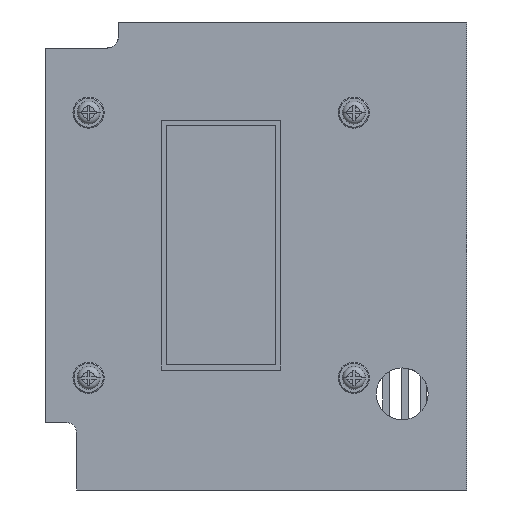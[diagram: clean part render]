
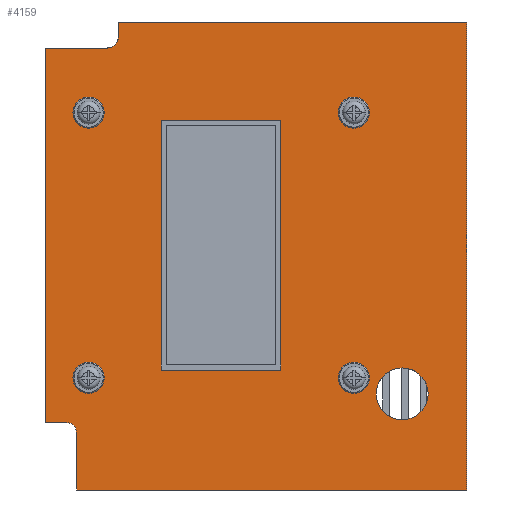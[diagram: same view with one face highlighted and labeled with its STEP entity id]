
A CAD part, front view. The second image highlights one B-rep face of the part: STEP entity #4159.
In plain terms, the highlighted planar face has unit normal (0, -1, 0).
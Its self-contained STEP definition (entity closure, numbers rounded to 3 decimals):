
#363=DIRECTION('',(-1.,0.,0.));
#364=VECTOR('',#363,67.);
#365=CARTESIAN_POINT('',(37.322,-52.082,90.));
#366=LINE('',#365,#364);
#934=DIRECTION('',(0.,0.,-1.));
#935=VECTOR('',#934,11.);
#936=CARTESIAN_POINT('',(-37.678,-52.082,11.));
#937=LINE('',#936,#935);
#1099=DIRECTION('',(-1.,0.,0.));
#1100=VECTOR('',#1099,12.);
#1101=CARTESIAN_POINT('',(-31.678,-52.082,85.));
#1102=LINE('',#1101,#1100);
#1159=DIRECTION('',(0.,0.,-1.));
#1160=VECTOR('',#1159,72.);
#1161=CARTESIAN_POINT('',(-43.678,-52.082,85.));
#1162=LINE('',#1161,#1160);
#1163=CARTESIAN_POINT('',(-39.678,-52.082,11.));
#1164=DIRECTION('',(0.,-1.,0.));
#1165=DIRECTION('',(1.,0.,0.));
#1166=AXIS2_PLACEMENT_3D('',#1163,#1164,#1165);
#1168=DIRECTION('',(-1.,0.,0.));
#1169=VECTOR('',#1168,4.);
#1170=CARTESIAN_POINT('',(-39.678,-52.082,13.));
#1171=LINE('',#1170,#1169);
#1172=CARTESIAN_POINT('',(-31.678,-52.082,87.));
#1173=DIRECTION('',(0.,-1.,0.));
#1174=DIRECTION('',(0.,0.,-1.));
#1175=AXIS2_PLACEMENT_3D('',#1172,#1173,#1174);
#1177=DIRECTION('',(0.,0.,1.));
#1178=VECTOR('',#1177,3.);
#1179=CARTESIAN_POINT('',(-29.678,-52.082,87.));
#1180=LINE('',#1179,#1178);
#1181=DIRECTION('',(0.,0.,-1.));
#1182=VECTOR('',#1181,90.);
#1183=CARTESIAN_POINT('',(37.322,-52.082,90.));
#1184=LINE('',#1183,#1182);
#1185=DIRECTION('',(-1.,0.,0.));
#1186=VECTOR('',#1185,75.);
#1187=CARTESIAN_POINT('',(37.322,-52.082,0.));
#1188=LINE('',#1187,#1186);
#1189=CARTESIAN_POINT('',(15.627,-52.082,72.575));
#1190=DIRECTION('',(0.,-1.,0.));
#1191=DIRECTION('',(-1.,0.,0.));
#1192=AXIS2_PLACEMENT_3D('',#1189,#1190,#1191);
#1194=CARTESIAN_POINT('',(15.627,-52.082,72.575));
#1195=DIRECTION('',(0.,-1.,0.));
#1196=DIRECTION('',(1.,0.,0.));
#1197=AXIS2_PLACEMENT_3D('',#1194,#1195,#1196);
#1199=CARTESIAN_POINT('',(-35.373,-52.082,
21.575));
#1200=DIRECTION('',(0.,-1.,0.));
#1201=DIRECTION('',(-1.,0.,0.));
#1202=AXIS2_PLACEMENT_3D('',#1199,#1200,#1201);
#1204=CARTESIAN_POINT('',(-35.373,-52.082,
21.575));
#1205=DIRECTION('',(0.,-1.,0.));
#1206=DIRECTION('',(1.,0.,0.));
#1207=AXIS2_PLACEMENT_3D('',#1204,#1205,#1206);
#1209=CARTESIAN_POINT('',(15.627,-52.082,21.575));
#1210=DIRECTION('',(0.,-1.,0.));
#1211=DIRECTION('',(-1.,0.,0.));
#1212=AXIS2_PLACEMENT_3D('',#1209,#1210,#1211);
#1214=CARTESIAN_POINT('',(15.627,-52.082,21.575));
#1215=DIRECTION('',(0.,-1.,0.));
#1216=DIRECTION('',(1.,0.,0.));
#1217=AXIS2_PLACEMENT_3D('',#1214,#1215,#1216);
#1219=CARTESIAN_POINT('',(24.925,-52.082,18.48));
#1220=DIRECTION('',(0.,-1.,0.));
#1221=DIRECTION('',(1.,0.,0.));
#1222=AXIS2_PLACEMENT_3D('',#1219,#1220,#1221);
#1224=CARTESIAN_POINT('',(24.925,-52.082,18.48));
#1225=DIRECTION('',(0.,-1.,0.));
#1226=DIRECTION('',(-1.,0.,0.));
#1227=AXIS2_PLACEMENT_3D('',#1224,#1225,#1226);
#1229=CARTESIAN_POINT('',(-35.373,-52.082,
72.575));
#1230=DIRECTION('',(0.,-1.,0.));
#1231=DIRECTION('',(-1.,0.,0.));
#1232=AXIS2_PLACEMENT_3D('',#1229,#1230,#1231);
#1234=CARTESIAN_POINT('',(-35.373,-52.082,
72.575));
#1235=DIRECTION('',(0.,-1.,0.));
#1236=DIRECTION('',(1.,0.,0.));
#1237=AXIS2_PLACEMENT_3D('',#1234,#1235,#1236);
#2417=DIRECTION('',(0.,0.,1.));
#2418=VECTOR('',#2417,48.);
#2419=CARTESIAN_POINT('',(-21.373,-52.082,23.075));
#2420=LINE('',#2419,#2418);
#2425=DIRECTION('',(1.,0.,0.));
#2426=VECTOR('',#2425,23.);
#2427=CARTESIAN_POINT('',(-21.373,-52.082,71.075));
#2428=LINE('',#2427,#2426);
#2433=DIRECTION('',(0.,0.,-1.));
#2434=VECTOR('',#2433,48.);
#2435=CARTESIAN_POINT('',(1.627,-52.082,71.075));
#2436=LINE('',#2435,#2434);
#2441=DIRECTION('',(-1.,0.,0.));
#2442=VECTOR('',#2441,23.);
#2443=CARTESIAN_POINT('',(1.627,-52.082,23.075));
#2444=LINE('',#2443,#2442);
#2883=CARTESIAN_POINT('',(37.322,-52.082,90.));
#2884=VERTEX_POINT('',#2883);
#2885=CARTESIAN_POINT('',(-29.678,-52.082,90.));
#2886=VERTEX_POINT('',#2885);
#2894=CARTESIAN_POINT('',(-37.678,-52.082,0.));
#2896=VERTEX_POINT('',#2894);
#2897=CARTESIAN_POINT('',(37.322,-52.082,0.));
#2898=VERTEX_POINT('',#2897);
#3063=CARTESIAN_POINT('',(-37.678,-52.082,11.));
#3065=VERTEX_POINT('',#3063);
#3068=CARTESIAN_POINT('',(-39.678,-52.082,13.));
#3070=VERTEX_POINT('',#3068);
#3082=CARTESIAN_POINT('',(-43.678,-52.082,13.));
#3083=VERTEX_POINT('',#3082);
#3102=CARTESIAN_POINT('',(-31.678,-52.082,85.));
#3103=VERTEX_POINT('',#3102);
#3104=CARTESIAN_POINT('',(-43.678,-52.082,85.));
#3105=VERTEX_POINT('',#3104);
#3113=CARTESIAN_POINT('',(-29.678,-52.082,87.));
#3114=VERTEX_POINT('',#3113);
#3115=CARTESIAN_POINT('',(12.627,-52.082,72.575));
#3116=CARTESIAN_POINT('',(18.627,-52.082,72.575));
#3117=VERTEX_POINT('',#3115);
#3118=VERTEX_POINT('',#3116);
#3119=CARTESIAN_POINT('',(-38.373,-52.082,
21.575));
#3120=CARTESIAN_POINT('',(-32.373,-52.082,
21.575));
#3121=VERTEX_POINT('',#3119);
#3122=VERTEX_POINT('',#3120);
#3123=CARTESIAN_POINT('',(12.627,-52.082,21.575));
#3124=CARTESIAN_POINT('',(18.627,-52.082,21.575));
#3125=VERTEX_POINT('',#3123);
#3126=VERTEX_POINT('',#3124);
#3127=CARTESIAN_POINT('',(29.925,-52.082,18.48));
#3128=CARTESIAN_POINT('',(19.925,-52.082,18.48));
#3129=VERTEX_POINT('',#3127);
#3130=VERTEX_POINT('',#3128);
#3131=CARTESIAN_POINT('',(-21.373,-52.082,23.075));
#3132=CARTESIAN_POINT('',(-21.373,-52.082,71.075));
#3133=VERTEX_POINT('',#3131);
#3134=VERTEX_POINT('',#3132);
#3135=CARTESIAN_POINT('',(1.627,-52.082,23.075));
#3136=VERTEX_POINT('',#3135);
#3137=CARTESIAN_POINT('',(1.627,-52.082,71.075));
#3138=VERTEX_POINT('',#3137);
#3139=CARTESIAN_POINT('',(-38.373,-52.082,
72.575));
#3140=CARTESIAN_POINT('',(-32.373,-52.082,
72.575));
#3141=VERTEX_POINT('',#3139);
#3142=VERTEX_POINT('',#3140);
#4099=CARTESIAN_POINT('',(0.,-52.082,0.));
#4100=DIRECTION('',(0.,-1.,0.));
#4101=DIRECTION('',(1.,0.,0.));
#4102=AXIS2_PLACEMENT_3D('',#4099,#4100,#4101);
#4103=PLANE('',#4102);
#4104=ORIENTED_EDGE('',*,*,#3827,.F.);
#4105=ORIENTED_EDGE('',*,*,#3842,.T.);
#4106=ORIENTED_EDGE('',*,*,#3880,.T.);
#4107=ORIENTED_EDGE('',*,*,#4094,.F.);
#4108=ORIENTED_EDGE('',*,*,#3960,.F.);
#4110=ORIENTED_EDGE('',*,*,#4109,.T.);
#4112=ORIENTED_EDGE('',*,*,#4111,.T.);
#4113=ORIENTED_EDGE('',*,*,#3531,.F.);
#4115=ORIENTED_EDGE('',*,*,#4114,.T.);
#4116=ORIENTED_EDGE('',*,*,#3564,.T.);
#4117=EDGE_LOOP('',(#4104,#4105,#4106,#4107,#4108,#4110,#4112,#4113,#4115,
#4116));
#4118=FACE_OUTER_BOUND('',#4117,.F.);
#4120=ORIENTED_EDGE('',*,*,#4119,.T.);
#4122=ORIENTED_EDGE('',*,*,#4121,.T.);
#4123=EDGE_LOOP('',(#4120,#4122));
#4124=FACE_BOUND('',#4123,.F.);
#4126=ORIENTED_EDGE('',*,*,#4125,.T.);
#4128=ORIENTED_EDGE('',*,*,#4127,.T.);
#4129=EDGE_LOOP('',(#4126,#4128));
#4130=FACE_BOUND('',#4129,.F.);
#4132=ORIENTED_EDGE('',*,*,#4131,.T.);
#4134=ORIENTED_EDGE('',*,*,#4133,.T.);
#4135=EDGE_LOOP('',(#4132,#4134));
#4136=FACE_BOUND('',#4135,.F.);
#4138=ORIENTED_EDGE('',*,*,#4137,.T.);
#4140=ORIENTED_EDGE('',*,*,#4139,.T.);
#4141=EDGE_LOOP('',(#4138,#4140));
#4142=FACE_BOUND('',#4141,.F.);
#4144=ORIENTED_EDGE('',*,*,#4143,.F.);
#4146=ORIENTED_EDGE('',*,*,#4145,.F.);
#4148=ORIENTED_EDGE('',*,*,#4147,.F.);
#4150=ORIENTED_EDGE('',*,*,#4149,.F.);
#4151=EDGE_LOOP('',(#4144,#4146,#4148,#4150));
#4152=FACE_BOUND('',#4151,.F.);
#4154=ORIENTED_EDGE('',*,*,#4153,.T.);
#4156=ORIENTED_EDGE('',*,*,#4155,.T.);
#4157=EDGE_LOOP('',(#4154,#4156));
#4158=FACE_BOUND('',#4157,.F.);
#4159=ADVANCED_FACE('',(#4118,#4124,#4130,#4136,#4142,#4152,#4158),#4103,.T.);
#1167=CIRCLE('',#1166,2.);
#1176=CIRCLE('',#1175,2.);
#1193=CIRCLE('',#1192,3.);
#1198=CIRCLE('',#1197,3.);
#1203=CIRCLE('',#1202,3.);
#1208=CIRCLE('',#1207,3.);
#1213=CIRCLE('',#1212,3.);
#1218=CIRCLE('',#1217,3.);
#1223=CIRCLE('',#1222,5.);
#1228=CIRCLE('',#1227,5.);
#1233=CIRCLE('',#1232,3.);
#1238=CIRCLE('',#1237,3.);
#3531=EDGE_CURVE('',#2884,#2886,#366,.T.);
#3564=EDGE_CURVE('',#2898,#2896,#1188,.T.);
#3827=EDGE_CURVE('',#3065,#2896,#937,.T.);
#3842=EDGE_CURVE('',#3065,#3070,#1167,.T.);
#3880=EDGE_CURVE('',#3070,#3083,#1171,.T.);
#3960=EDGE_CURVE('',#3103,#3105,#1102,.T.);
#4094=EDGE_CURVE('',#3105,#3083,#1162,.T.);
#4109=EDGE_CURVE('',#3103,#3114,#1176,.T.);
#4111=EDGE_CURVE('',#3114,#2886,#1180,.T.);
#4114=EDGE_CURVE('',#2884,#2898,#1184,.T.);
#4119=EDGE_CURVE('',#3117,#3118,#1193,.T.);
#4121=EDGE_CURVE('',#3118,#3117,#1198,.T.);
#4125=EDGE_CURVE('',#3121,#3122,#1203,.T.);
#4127=EDGE_CURVE('',#3122,#3121,#1208,.T.);
#4131=EDGE_CURVE('',#3125,#3126,#1213,.T.);
#4133=EDGE_CURVE('',#3126,#3125,#1218,.T.);
#4137=EDGE_CURVE('',#3129,#3130,#1223,.T.);
#4139=EDGE_CURVE('',#3130,#3129,#1228,.T.);
#4143=EDGE_CURVE('',#3133,#3134,#2420,.T.);
#4145=EDGE_CURVE('',#3136,#3133,#2444,.T.);
#4147=EDGE_CURVE('',#3138,#3136,#2436,.T.);
#4149=EDGE_CURVE('',#3134,#3138,#2428,.T.);
#4153=EDGE_CURVE('',#3141,#3142,#1233,.T.);
#4155=EDGE_CURVE('',#3142,#3141,#1238,.T.);
